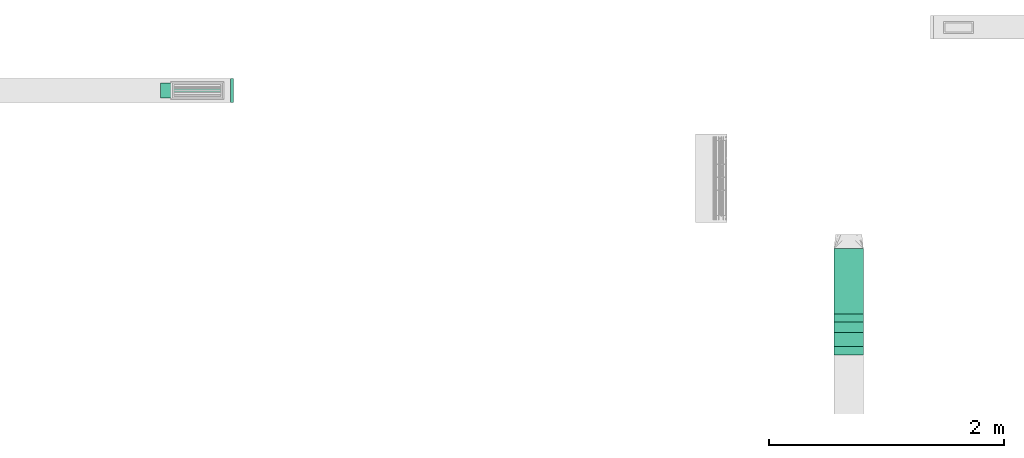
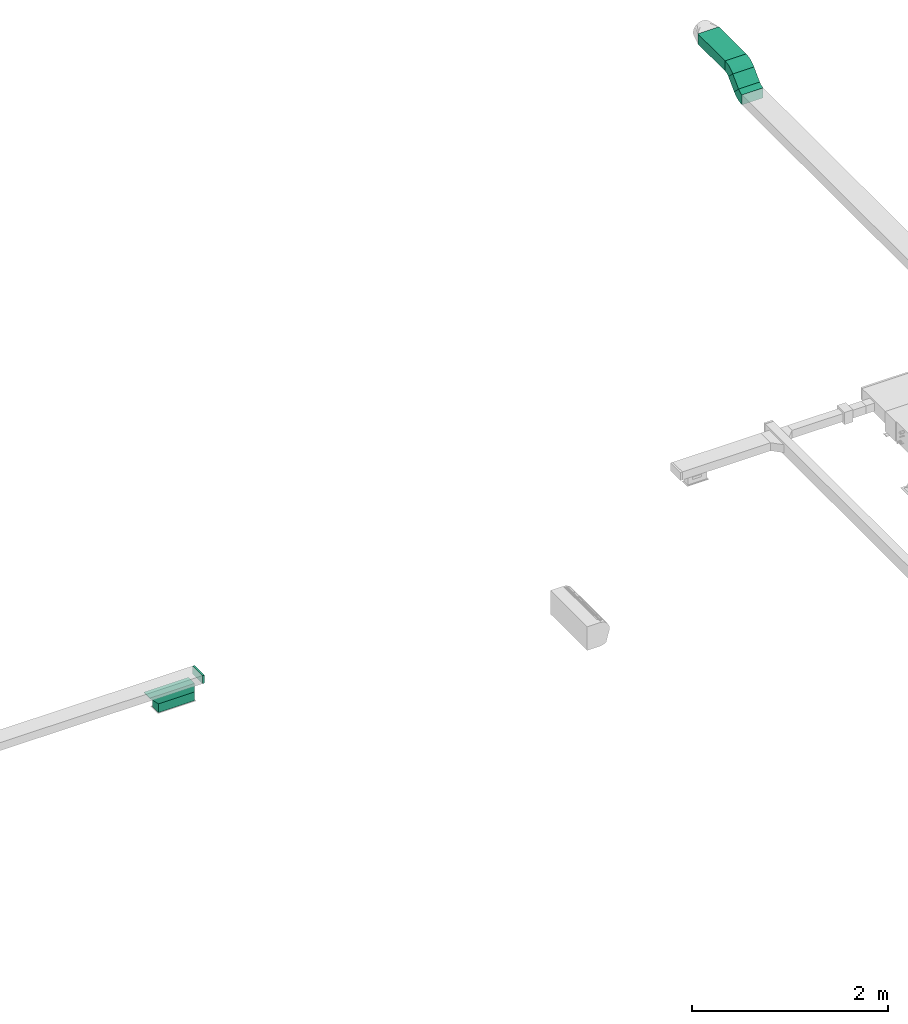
# One storey, part 12 of 22: 4 flow fittings, 3 flow segments.
"""IFC2X3 building model written with IfcOpenShell, lengths in millimetres."""

from ifc_helpers import new_model, entity, si_unit, converted_unit, derived_unit, direction, frame, frame_2d, origin, place, context, subcontext, project, spatial, polyline, circle_curve, parameter, trimmed, segment, composite_curve, rectangle, outline, extrude, source, transform, mapped, material, type_object, type_shapes, element, save


model = new_model("IFC2X3")

# Units and contexts
model_context = context("Model", 3, precision=0.01, world=origin(), true_north=direction((6.123233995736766e-17, 1.0)))
body_context = subcontext(model_context, "Body", "Model", "MODEL_VIEW")
ifc_project = project(units=[si_unit("LENGTHUNIT", "METRE", prefix="MILLI"), converted_unit("PLANEANGLEUNIT", "DEGREE", entity("IfcPlaneAngleMeasure", 0.017453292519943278), si_unit("PLANEANGLEUNIT", "RADIAN"), dimensions=[0, 0, 0, 0, 0, 0, 0]), si_unit("AREAUNIT", "SQUARE_METRE"), derived_unit("THERMALTRANSMITTANCEUNIT", [(si_unit("MASSUNIT", "GRAM", prefix="KILO"), 1), (si_unit("THERMODYNAMICTEMPERATUREUNIT", "KELVIN"), -1), (si_unit("TIMEUNIT", "SECOND"), -3)])], contexts=[model_context])

# Site, building, storey
site_placement = place(None, origin())
site = spatial("IfcSite", under=ifc_project, at=site_placement, Name="Default", CompositionType="ELEMENT")
building_placement = place(site_placement, origin())
building = spatial("IfcBuilding", under=site, at=building_placement, Name="Praça Pedro II, 1301 - Centro (Sul), Teresina - PI, 64001-100", CompositionType="ELEMENT")
storey_placement = place(building_placement, frame((0.0, 0.0, 320.0)))
storey = spatial("IfcBuildingStorey", under=building, at=storey_placement, Name="TÉRREO +0.32m", CompositionType="ELEMENT", Elevation=319.99999999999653)

# Flow segments
duct_segment_type = type_object("IfcDuctSegmentType", Name="Duto retangular:Raios cotovelos / torneiras", PredefinedType="NOTDEFINED")
flow_segment_1_placement = place(storey_placement, origin())
element("IfcFlowSegment", 1, at=flow_segment_1_placement, inside=storey, type_object=duct_segment_type, Name="Duto retangular:Raios cotovelos / torneiras", ObjectType="Duto retangular:Raios cotovelos / torneiras", context=body_context, shape_type="SweptSolid", body=[
    extrude(rectangle(XDim=166.78927418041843, YDim=124.99999999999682, at=frame_2d((3.062439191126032e-12, -3.062439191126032e-12), x_axis=(1.0, 0.0))), frame((33661.88553093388, -54126.77818203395, 8943.435938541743), z_axis=(1.0, 0.0, 0.0), x_axis=(0.0, 0.7071067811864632, 0.707106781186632)), (0.0, 0.0, 1.0), 249.9999999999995),
])
flow_segment_2_placement = place(storey_placement, origin())
element("IfcFlowSegment", 2, at=flow_segment_2_placement, inside=storey, type_object=duct_segment_type, Name="Duto retangular:Raios cotovelos / torneiras", ObjectType="Duto retangular:Raios cotovelos / torneiras", context=body_context, shape_type="SweptSolid", body=[
    extrude(rectangle(XDim=556.4389827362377, YDim=249.9999999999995, at=frame_2d((4.348521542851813e-12, 2.1671553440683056e-12), x_axis=(1.0, 0.0))), frame((33786.88553093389, -53674.68492532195, 8987.500000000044), z_axis=(0.0, 0.0, 1.0), x_axis=(0.0, 1.0, 0.0)), (0.0, 0.0, 1.0), 124.99999999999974),
])
flow_segment_3_placement = place(storey_placement, origin())
element("IfcFlowSegment", 3, at=flow_segment_3_placement, inside=storey, type_object=duct_segment_type, Name="Duto retangular:Raios cotovelos / torneiras", ObjectType="Duto retangular:Raios cotovelos / torneiras", context=body_context, shape_type="SweptSolid", body=[
    extrude(rectangle(XDim=125.00000000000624, YDim=424.99999999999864, at=frame_2d((-8.661515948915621e-12, -4.334310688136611e-12), x_axis=(1.0, 0.0))), frame((28252.202098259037, -52054.62602949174, 1842.0), z_axis=(0.0, 0.0, 1.0), x_axis=(0.0, 1.0, 0.0)), (0.0, 0.0, 1.0), 107.99999999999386),
])

# Flow fittings
ifc_material = material(Name="<Unnamed>")
duct_fitting_type_1 = type_object("IfcDuctFittingType", Name="M_Tampa retangular:Padrão", PredefinedType="NOTDEFINED", material=ifc_material)
shared_shape_1 = source(origin(), body_context, "Body", "SweptSolid", [
    extrude(rectangle(XDim=24.999999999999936, YDim=200.00000000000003, at=frame_2d((-8.881784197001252e-16, 0.0), x_axis=(1.0, 0.0))), frame((12.500000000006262, 0.0, -50.0)), (0.0, 0.0, 1.0), 100.0),
])
type_shapes(duct_fitting_type_1, [shared_shape_1])
flow_fitting_1_placement = place(storey_placement, frame((28535.75834078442, -52054.62602949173, 2100.0)))
element("IfcFlowFitting", 4, at=flow_fitting_1_placement, inside=storey, type_object=duct_fitting_type_1, material=ifc_material, Name="M_Tampa retangular:Padrão", ObjectType="M_Tampa retangular:Padrão", context=body_context, shape_type="MappedRepresentation", body=[
    mapped(shared_shape_1, transform((0.0, 0.0, 0.0), scale=1.0)),
])
duct_fitting_type_2 = type_object("IfcDuctFittingType", Name="BTS vanes:1 Splitter Vanes", PredefinedType="NOTDEFINED", material=ifc_material)
shared_shape_2 = source(origin(), body_context, "Body", "SweptSolid", [
    extrude(outline(composite_curve([segment(polyline([(-86.29757402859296, -57.45242597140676), (38.70242597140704, -57.45242597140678)]), True, "CONTINUOUS"), segment(trimmed(circle_curve(frame_2d((138.70242597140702, -57.452425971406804), x_axis=(-0.7071067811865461, 0.7071067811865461)), 100.0), [parameter(0.0)], [parameter(44.99999999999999)], True, "PARAMETER"), False, "CONTINUOUS"), segment(polyline([(67.99174785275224, 13.258252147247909), (-20.396599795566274, 101.6465997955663)]), True, "CONTINUOUS"), segment(trimmed(circle_curve(frame_2d((138.70242597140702, -57.452425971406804), x_axis=(-0.7071067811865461, 0.7071067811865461)), 225.00000000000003), [parameter(0.0)], [parameter(44.99999999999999)], True, "PARAMETER"), True, "CONTINUOUS")], self_intersect=False)), frame((-9.857277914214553, 23.797574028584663, -125.0), z_axis=(0.0, 0.0, 1.0), x_axis=(-0.707106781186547, 0.707106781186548, 0.0)), (0.0, 0.0, 1.0), 250.00000000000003),
    extrude(outline(composite_curve([segment(polyline([(-35.76341427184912, -41.868164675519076), (1.0786909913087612, -41.86816467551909)]), True, "CONTINUOUS"), segment(trimmed(circle_curve(frame_2d((101.07869099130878, -41.868164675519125), x_axis=(-0.707106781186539, 0.7071067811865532)), 100.0), [parameter(0.0)], [parameter(44.99999999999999)], True, "PARAMETER"), False, "CONTINUOUS"), segment(polyline([(30.36801287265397, 28.84251344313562), (4.3167104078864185, 54.893815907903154)]), True, "CONTINUOUS"), segment(trimmed(circle_curve(frame_2d((101.07869099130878, -41.868164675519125), x_axis=(-0.707106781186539, 0.7071067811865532)), 136.84210526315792), [parameter(0.0)], [parameter(44.99999999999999)], True, "PARAMETER"), True, "CONTINUOUS")], self_intersect=False)), frame((-25.441539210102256, 61.4213090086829, -125.0), z_axis=(0.0, 0.0, 1.0), x_axis=(-0.7071067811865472, 0.7071067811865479, 0.0)), (0.0, 0.0, 1.0), 250.00000000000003),
])
type_shapes(duct_fitting_type_2, [shared_shape_2])
for number, where, z_axis, x_axis, name in (
    (5, (33786.88553093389, -54233.34224349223, 8836.871877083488), (1.0, 0.0, 0.0), (0.0, 1.0, 0.0), "BTS vanes:1 Splitter Vanes"),
    (6, (33786.88553093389, -54020.21412057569, 9050.0), (-1.0, 0.0, 0.0), (0.0, 0.707106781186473, 0.7071067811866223), "BTS vanes:1 Splitter Vanes"),
):
    element("IfcFlowFitting", number, at=place(storey_placement, frame(where, z_axis=z_axis, x_axis=x_axis)), inside=storey, type_object=duct_fitting_type_2, material=ifc_material, Name=name, ObjectType="BTS vanes:1 Splitter Vanes", context=body_context, shape_type="MappedRepresentation", body=[
        mapped(shared_shape_2, transform((0.0, 0.0, 0.0), scale=1.0)),
    ])
duct_fitting_type_3 = type_object("IfcDuctFittingType", Name="M_Rectangular Tap - Beveled:Standard", PredefinedType="NOTDEFINED", material=ifc_material)
shared_shape_3 = source(origin(), body_context, "Body", "SweptSolid", [
    extrude(outline(polyline([(-295.0, -62.438400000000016), (130.0, -62.438400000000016), (230.0, 37.56159999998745), (230.0, 43.657600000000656), (-295.0, 43.65759999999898), (-295.0, -62.438400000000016)])), frame((37.561600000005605, 82.50000000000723, -62.49999999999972), z_axis=(0.0, 0.0, 1.0), x_axis=(0.0, 1.0, 0.0)), (0.0, 0.0, 1.0), 124.99999999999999),
])
type_shapes(duct_fitting_type_3, [shared_shape_3])
flow_fitting_2_placement = place(storey_placement, frame((28252.202098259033, -52054.626029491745, 2050.0), z_axis=(0.0, 1.0, 0.0), x_axis=(0.0, 0.0, -1.0)))
element("IfcFlowFitting", 7, at=flow_fitting_2_placement, inside=storey, type_object=duct_fitting_type_3, material=ifc_material, Name="M_Rectangular Tap - Beveled:Standard", ObjectType="M_Rectangular Tap - Beveled:Standard", context=body_context, shape_type="MappedRepresentation", body=[
    mapped(shared_shape_3, transform((0.0, 0.0, 0.0), scale=1.0)),
])

save(model, "model.ifc")
